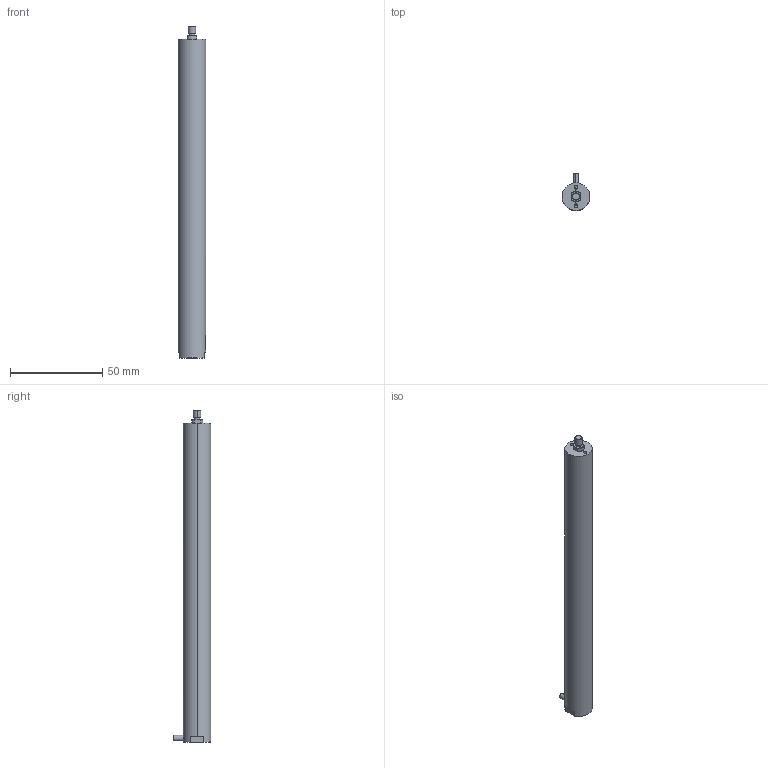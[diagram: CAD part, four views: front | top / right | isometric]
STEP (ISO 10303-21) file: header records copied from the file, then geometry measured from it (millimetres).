
FILE_DESCRIPTION (( 'STEP AP203' ), '1' );
FILE_NAME ('180VS15俋蹟恇.STEP', '2024-11-30T07:51:43', ( 'daohangxitong.com' ), ( 'daohangxitong.com' ), 'SwSTEP 2.0', 'SolidWorks 2016', '' );
FILE_SCHEMA (( 'CONFIG_CONTROL_DESIGN' ));
Products named in the file (1): 180VS15俋蹟恇
Bounding box: 15 x 20.5 x 179.8 mm (x, y, z)
Volume: 30567.8 mm3; surface area: 8712.6 mm2
Topology: 1 solids, 1 shells, 974 faces, 2792 edges, 1855 vertices
Faces by surface type: bspline 852, cylinder 55, plane 53, cone 14
Entity records: 52599 total; most frequent: CARTESIAN_POINT 34708, ORIENTED_EDGE 5572, EDGE_CURVE 2786, B_SPLINE_CURVE_WITH_KNOTS 2611, VERTEX_POINT 1855, EDGE_LOOP 1015, FACE_OUTER_BOUND 974, ADVANCED_FACE 974
